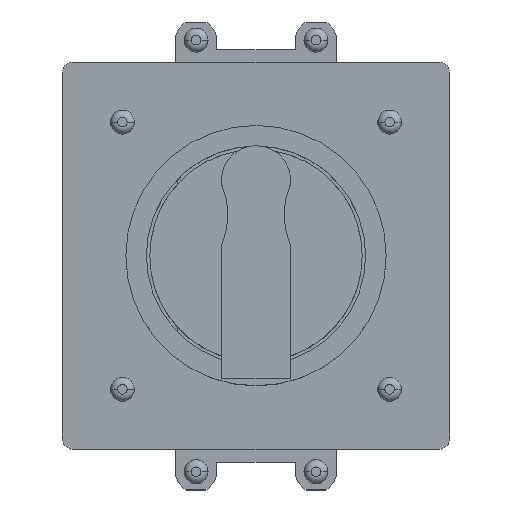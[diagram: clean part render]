
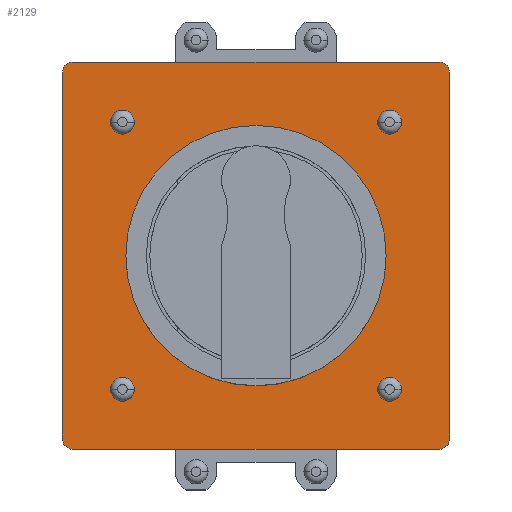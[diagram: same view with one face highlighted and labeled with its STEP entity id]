
A CAD part, top view. The second image highlights one B-rep face of the part: STEP entity #2129.
In plain terms, the highlighted planar face has unit normal (0, 0, 1).
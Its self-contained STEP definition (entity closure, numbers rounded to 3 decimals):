
#1103 = VERTEX_POINT( '', #3097 );
#1123 = EDGE_CURVE( '', #1349, #1671, #3117, .T. );
#1199 = EDGE_CURVE( '', #1565, #2709, #3210, .T. );
#1213 = VERTEX_POINT( '', #3227 );
#1307 = EDGE_CURVE( '', #1103, #1213, #3329, .T. );
#1341 = EDGE_CURVE( '', #2161, #1873, #3365, .T. );
#1349 = VERTEX_POINT( '', #3373 );
#1411 = EDGE_CURVE( '', #2145, #1565, #3440, .T. );
#1473 = VERTEX_POINT( '', #3508 );
#1561 = EDGE_CURVE( '', #2373, #2485, #3601, .T. );
#1565 = VERTEX_POINT( '', #3605 );
#1649 = EDGE_CURVE( '', #1933, #2373, #3695, .T. );
#1671 = VERTEX_POINT( '', #3718 );
#1853 = EDGE_CURVE( '', #2709, #2769, #3927, .T. );
#1873 = VERTEX_POINT( '', #3951 );
#1919 = VERTEX_POINT( '', #4001 );
#1933 = VERTEX_POINT( '', #4015 );
#1937 = EDGE_CURVE( '', #2147, #1919, #4019, .T. );
#1965 = EDGE_CURVE( '', #2769, #1933, #4055, .T. );
#2081 = EDGE_CURVE( '', #1473, #2633, #4183, .T. );
#2129 = ADVANCED_FACE( '', ( #4241, #4242, #4243, #4244, #4245, #4246 ), #4247, .T. );
#2145 = VERTEX_POINT( '', #4265 );
#2147 = VERTEX_POINT( '', #4267 );
#2161 = VERTEX_POINT( '', #4281 );
#2189 = EDGE_CURVE( '', #1919, #2147, #4313, .T. );
#2329 = EDGE_CURVE( '', #1213, #1103, #4464, .T. );
#2373 = VERTEX_POINT( '', #4510 );
#2485 = VERTEX_POINT( '', #4633 );
#2513 = EDGE_CURVE( '', #1671, #1349, #4664, .T. );
#2609 = EDGE_CURVE( '', #2633, #1473, #4772, .T. );
#2633 = VERTEX_POINT( '', #4801 );
#2647 = VERTEX_POINT( '', #4817 );
#2709 = VERTEX_POINT( '', #4884 );
#2769 = VERTEX_POINT( '', #4948 );
#2771 = EDGE_CURVE( '', #2647, #2145, #4950, .T. );
#2831 = EDGE_CURVE( '', #1873, #2161, #5016, .T. );
#2971 = EDGE_CURVE( '', #2485, #2647, #5184, .T. );
#3097 = CARTESIAN_POINT( '', ( -41., -39., 19.1 ) );
#3117 = CIRCLE( '', #5357, 2. );
#3210 = CIRCLE( '', #5472, 3. );
#3227 = CARTESIAN_POINT( '', ( -37., -39., 19.1 ) );
#3329 = CIRCLE( '', #5632, 2. );
#3365 = CIRCLE( '', #5679, 2. );
#3373 = CARTESIAN_POINT( '', ( -41., 39., 19.1 ) );
#3440 = LINE( '', #5775, #5776 );
#3508 = CARTESIAN_POINT( '', ( 37., 39., 19.1 ) );
#3601 = CIRCLE( '', #6002, 3. );
#3605 = CARTESIAN_POINT( '', ( 56.5, -53.5, 19.1 ) );
#3695 = LINE( '', #6129, #6130 );
#3718 = CARTESIAN_POINT( '', ( -37., 39., 19.1 ) );
#3927 = LINE( '', #6438, #6439 );
#3951 = CARTESIAN_POINT( '', ( 41., -39., 19.1 ) );
#4001 = CARTESIAN_POINT( '', ( -38., 0., 19.1 ) );
#4015 = CARTESIAN_POINT( '', ( -56.5, -53.5, 19.1 ) );
#4019 = CIRCLE( '', #6556, 38. );
#4055 = CIRCLE( '', #6600, 3. );
#4183 = CIRCLE( '', #6767, 2. );
#4241 = FACE_BOUND( '', #6840, .T. );
#4242 = FACE_BOUND( '', #6841, .T. );
#4243 = FACE_BOUND( '', #6842, .T. );
#4244 = FACE_BOUND( '', #6843, .T. );
#4245 = FACE_BOUND( '', #6844, .T. );
#4246 = FACE_OUTER_BOUND( '', #6845, .T. );
#4247 = PLANE( '', #6846 );
#4265 = CARTESIAN_POINT( '', ( 56.5, 53.5, 19.1 ) );
#4267 = CARTESIAN_POINT( '', ( 38., 0., 19.1 ) );
#4281 = CARTESIAN_POINT( '', ( 37., -39., 19.1 ) );
#4313 = CIRCLE( '', #6931, 38. );
#4464 = CIRCLE( '', #7137, 2. );
#4510 = CARTESIAN_POINT( '', ( -56.5, 53.5, 19.1 ) );
#4633 = CARTESIAN_POINT( '', ( -53.5, 56.5, 19.1 ) );
#4664 = CIRCLE( '', #7418, 2. );
#4772 = CIRCLE( '', #7554, 2. );
#4801 = CARTESIAN_POINT( '', ( 41., 39., 19.1 ) );
#4817 = CARTESIAN_POINT( '', ( 53.5, 56.5, 19.1 ) );
#4884 = CARTESIAN_POINT( '', ( 53.5, -56.5, 19.1 ) );
#4948 = CARTESIAN_POINT( '', ( -53.5, -56.5, 19.1 ) );
#4950 = CIRCLE( '', #7796, 3. );
#5016 = CIRCLE( '', #7872, 2. );
#5184 = LINE( '', #8075, #8076 );
#5357 = AXIS2_PLACEMENT_3D( '', #8190, #8191, #8192 );
#5472 = AXIS2_PLACEMENT_3D( '', #8320, #8321, #8322 );
#5632 = AXIS2_PLACEMENT_3D( '', #8462, #8463, #8464 );
#5679 = AXIS2_PLACEMENT_3D( '', #8496, #8497, #8498 );
#5775 = CARTESIAN_POINT( '', ( 56.5, -53.5, 19.1 ) );
#5776 = VECTOR( '', #8566, 1. );
#6002 = AXIS2_PLACEMENT_3D( '', #8759, #8760, #8761 );
#6129 = CARTESIAN_POINT( '', ( -56.5, 53.5, 19.1 ) );
#6130 = VECTOR( '', #8838, 1. );
#6438 = CARTESIAN_POINT( '', ( -53.5, -56.5, 19.1 ) );
#6439 = VECTOR( '', #9128, 1. );
#6556 = AXIS2_PLACEMENT_3D( '', #9223, #9224, #9225 );
#6600 = AXIS2_PLACEMENT_3D( '', #9294, #9295, #9296 );
#6767 = AXIS2_PLACEMENT_3D( '', #9450, #9451, #9452 );
#6840 = EDGE_LOOP( '', ( #9533, #9534 ) );
#6841 = EDGE_LOOP( '', ( #9535, #9536 ) );
#6842 = EDGE_LOOP( '', ( #9537, #9538 ) );
#6843 = EDGE_LOOP( '', ( #9539, #9540 ) );
#6844 = EDGE_LOOP( '', ( #9541, #9542 ) );
#6845 = EDGE_LOOP( '', ( #9543, #9544, #9545, #9546, #9547, #9548, #9549, #9550 ) );
#6846 = AXIS2_PLACEMENT_3D( '', #9551, #9552, #9553 );
#6931 = AXIS2_PLACEMENT_3D( '', #9619, #9620, #9621 );
#7137 = AXIS2_PLACEMENT_3D( '', #9792, #9793, #9794 );
#7418 = AXIS2_PLACEMENT_3D( '', #10014, #10015, #10016 );
#7554 = AXIS2_PLACEMENT_3D( '', #10148, #10149, #10150 );
#7796 = AXIS2_PLACEMENT_3D( '', #10358, #10359, #10360 );
#7872 = AXIS2_PLACEMENT_3D( '', #10431, #10432, #10433 );
#8075 = CARTESIAN_POINT( '', ( 53.5, 56.5, 19.1 ) );
#8076 = VECTOR( '', #10700, 1. );
#8190 = CARTESIAN_POINT( '', ( -39., 39., 19.1 ) );
#8191 = DIRECTION( '', ( 0., 0., -1. ) );
#8192 = DIRECTION( '', ( 1., 0., 0. ) );
#8320 = CARTESIAN_POINT( '', ( 53.5, -53.5, 19.1 ) );
#8321 = DIRECTION( '', ( 0., 0., -1. ) );
#8322 = DIRECTION( '', ( 0., -1., 0. ) );
#8462 = CARTESIAN_POINT( '', ( -39., -39., 19.1 ) );
#8463 = DIRECTION( '', ( 0., 0., -1. ) );
#8464 = DIRECTION( '', ( 1., 0., 0. ) );
#8496 = CARTESIAN_POINT( '', ( 39., -39., 19.1 ) );
#8497 = DIRECTION( '', ( 0., 0., -1. ) );
#8498 = DIRECTION( '', ( 1., 0., 0. ) );
#8566 = DIRECTION( '', ( 0., -1., 0. ) );
#8759 = CARTESIAN_POINT( '', ( -53.5, 53.5, 19.1 ) );
#8760 = DIRECTION( '', ( 0., 0., -1. ) );
#8761 = DIRECTION( '', ( 0., 1., 0. ) );
#8838 = DIRECTION( '', ( 0., 1., 0. ) );
#9128 = DIRECTION( '', ( -1., 0., 0. ) );
#9223 = CARTESIAN_POINT( '', ( 0., 0., 19.1 ) );
#9224 = DIRECTION( '', ( 0., 0., -1. ) );
#9225 = DIRECTION( '', ( 1., 0., 0. ) );
#9294 = CARTESIAN_POINT( '', ( -53.5, -53.5, 19.1 ) );
#9295 = DIRECTION( '', ( 0., 0., -1. ) );
#9296 = DIRECTION( '', ( -1., 0., 0. ) );
#9450 = CARTESIAN_POINT( '', ( 39., 39., 19.1 ) );
#9451 = DIRECTION( '', ( 0., 0., -1. ) );
#9452 = DIRECTION( '', ( 1., 0., 0. ) );
#9533 = ORIENTED_EDGE( '', *, *, #2831, .T. );
#9534 = ORIENTED_EDGE( '', *, *, #1341, .T. );
#9535 = ORIENTED_EDGE( '', *, *, #2329, .T. );
#9536 = ORIENTED_EDGE( '', *, *, #1307, .T. );
#9537 = ORIENTED_EDGE( '', *, *, #2609, .T. );
#9538 = ORIENTED_EDGE( '', *, *, #2081, .T. );
#9539 = ORIENTED_EDGE( '', *, *, #2513, .T. );
#9540 = ORIENTED_EDGE( '', *, *, #1123, .T. );
#9541 = ORIENTED_EDGE( '', *, *, #1937, .T. );
#9542 = ORIENTED_EDGE( '', *, *, #2189, .T. );
#9543 = ORIENTED_EDGE( '', *, *, #1649, .F. );
#9544 = ORIENTED_EDGE( '', *, *, #1965, .F. );
#9545 = ORIENTED_EDGE( '', *, *, #1853, .F. );
#9546 = ORIENTED_EDGE( '', *, *, #1199, .F. );
#9547 = ORIENTED_EDGE( '', *, *, #1411, .F. );
#9548 = ORIENTED_EDGE( '', *, *, #2771, .F. );
#9549 = ORIENTED_EDGE( '', *, *, #2971, .F. );
#9550 = ORIENTED_EDGE( '', *, *, #1561, .F. );
#9551 = CARTESIAN_POINT( '', ( 0., 0., 19.1 ) );
#9552 = DIRECTION( '', ( 0., 0., 1. ) );
#9553 = DIRECTION( '', ( 1., 0., 0. ) );
#9619 = CARTESIAN_POINT( '', ( 0., 0., 19.1 ) );
#9620 = DIRECTION( '', ( 0., 0., -1. ) );
#9621 = DIRECTION( '', ( 1., 0., 0. ) );
#9792 = CARTESIAN_POINT( '', ( -39., -39., 19.1 ) );
#9793 = DIRECTION( '', ( 0., 0., -1. ) );
#9794 = DIRECTION( '', ( 1., 0., 0. ) );
#10014 = CARTESIAN_POINT( '', ( -39., 39., 19.1 ) );
#10015 = DIRECTION( '', ( 0., 0., -1. ) );
#10016 = DIRECTION( '', ( 1., 0., 0. ) );
#10148 = CARTESIAN_POINT( '', ( 39., 39., 19.1 ) );
#10149 = DIRECTION( '', ( 0., 0., -1. ) );
#10150 = DIRECTION( '', ( 1., 0., 0. ) );
#10358 = CARTESIAN_POINT( '', ( 53.5, 53.5, 19.1 ) );
#10359 = DIRECTION( '', ( 0., 0., -1. ) );
#10360 = DIRECTION( '', ( 1., 0., 0. ) );
#10431 = CARTESIAN_POINT( '', ( 39., -39., 19.1 ) );
#10432 = DIRECTION( '', ( 0., 0., -1. ) );
#10433 = DIRECTION( '', ( 1., 0., 0. ) );
#10700 = DIRECTION( '', ( 1., 0., 0. ) );
